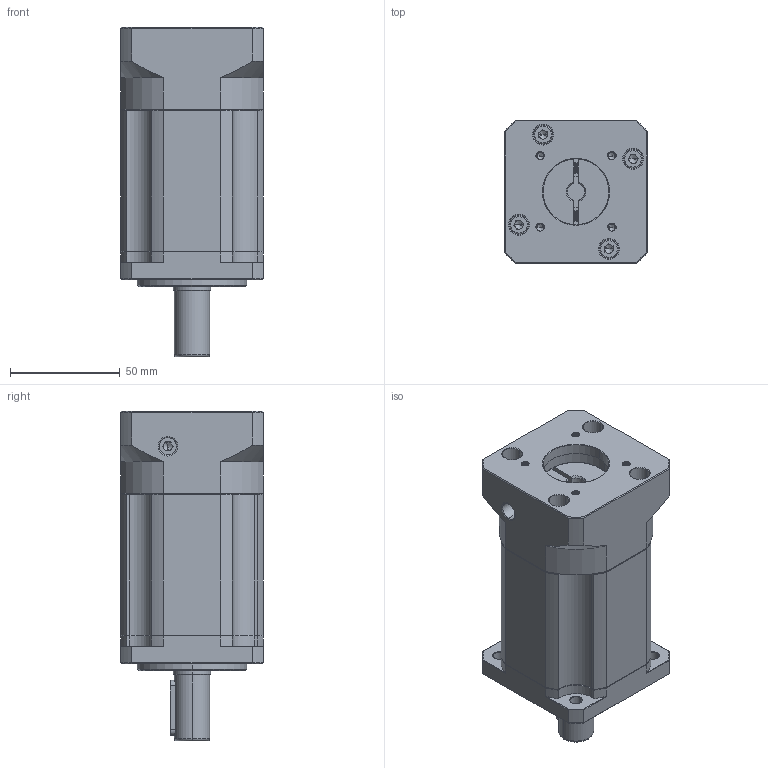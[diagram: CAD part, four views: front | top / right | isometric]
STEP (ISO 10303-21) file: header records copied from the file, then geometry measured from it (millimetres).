
FILE_DESCRIPTION (( 'STEP AP214' ), '1' );
FILE_NAME ('ZB060-D16-L3-P2-8-30-46-M4.step', '2023-08-16T07:08:46', ( '' ), ( '' ), 'SwSTEP 2.0', 'SolidWorks 2016', '' );
FILE_SCHEMA (( 'AUTOMOTIVE_DESIGN' ));
Length unit declared in the file: millimetre
Products named in the file (1): ZB060-D16-L3-P2-8-30-46-M4
Bounding box: 65 x 65 x 150 mm (x, y, z)
Volume: 398495.4 mm3; surface area: 63065 mm2
Topology: 6 solids, 6 shells, 2154 faces, 5800 edges, 3734 vertices
Faces by surface type: plane 1059, bspline 397, cylinder 381, cone 283, torus 34
Entity records: 114832 total; most frequent: CARTESIAN_POINT 40217, ORIENTED_EDGE 11540, DIRECTION 9090, EDGE_CURVE 5770, VERTEX_POINT 3734, LINE 3636, VECTOR 3636, AXIS2_PLACEMENT_3D 2727
